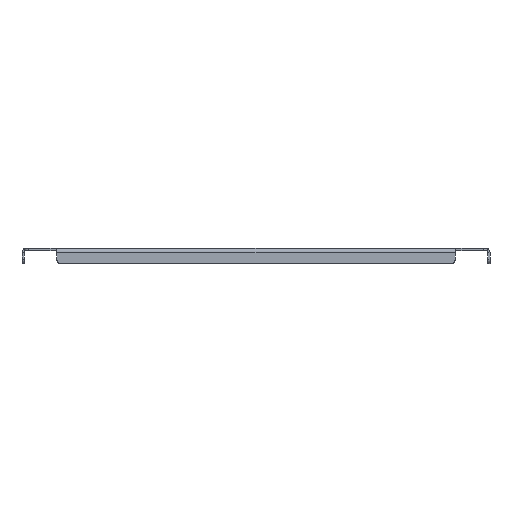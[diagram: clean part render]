
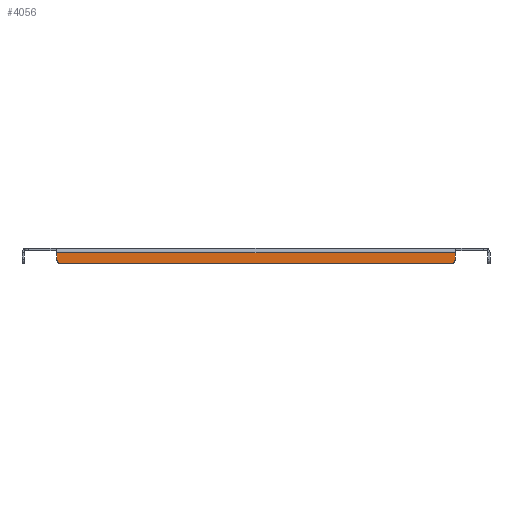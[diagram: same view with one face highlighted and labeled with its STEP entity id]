
A CAD part, front view. The second image highlights one B-rep face of the part: STEP entity #4056.
In plain terms, the highlighted planar face has unit normal (0, -1, 0).
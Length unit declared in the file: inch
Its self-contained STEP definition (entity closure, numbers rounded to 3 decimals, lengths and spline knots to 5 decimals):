
#1499=DIRECTION('',(-1.,0.,0.));
#1500=VECTOR('',#1499,22.9375);
#1501=CARTESIAN_POINT('',(11.46875,-19.46875,-0.237));
#1502=LINE('',#1501,#1500);
#1613=CARTESIAN_POINT('',(-11.21875,-19.46875,-0.625));
#1614=DIRECTION('',(0.,-1.,0.));
#1615=DIRECTION('',(-1.,0.,0.));
#1616=AXIS2_PLACEMENT_3D('',#1613,#1614,#1615);
#1621=DIRECTION('',(0.,0.,-1.));
#1622=VECTOR('',#1621,0.388);
#1623=CARTESIAN_POINT('',(-11.46875,-19.46875,-0.237));
#1624=LINE('',#1623,#1622);
#1628=DIRECTION('',(0.,0.,1.));
#1629=VECTOR('',#1628,0.388);
#1630=CARTESIAN_POINT('',(11.46875,-19.46875,-0.625));
#1631=LINE('',#1630,#1629);
#1635=CARTESIAN_POINT('',(11.21875,-19.46875,-0.625));
#1636=DIRECTION('',(0.,-1.,0.));
#1637=DIRECTION('',(0.,0.,-1.));
#1638=AXIS2_PLACEMENT_3D('',#1635,#1636,#1637);
#1643=DIRECTION('',(1.,0.,0.));
#1644=VECTOR('',#1643,22.4375);
#1645=CARTESIAN_POINT('',(-11.21875,-19.46875,-0.875));
#1646=LINE('',#1645,#1644);
#2004=CARTESIAN_POINT('',(11.46875,-19.46875,-0.237));
#2005=CARTESIAN_POINT('',(-11.46875,-19.46875,-0.237));
#2006=VERTEX_POINT('',#2004);
#2007=VERTEX_POINT('',#2005);
#2284=CARTESIAN_POINT('',(-11.46875,-19.46875,-0.625));
#2285=CARTESIAN_POINT('',(-11.21875,-19.46875,-0.875));
#2286=VERTEX_POINT('',#2284);
#2287=VERTEX_POINT('',#2285);
#2292=CARTESIAN_POINT('',(11.21875,-19.46875,-0.875));
#2293=CARTESIAN_POINT('',(11.46875,-19.46875,-0.625));
#2294=VERTEX_POINT('',#2292);
#2295=VERTEX_POINT('',#2293);
#4040=CARTESIAN_POINT('',(-13.34375,-19.46875,0.));
#4041=DIRECTION('',(0.,-1.,0.));
#4042=DIRECTION('',(-1.,0.,0.));
#4043=AXIS2_PLACEMENT_3D('',#4040,#4041,#4042);
#4044=PLANE('',#4043);
#4045=ORIENTED_EDGE('',*,*,#4030,.F.);
#4046=ORIENTED_EDGE('',*,*,#4020,.F.);
#4047=ORIENTED_EDGE('',*,*,#3826,.F.);
#4049=ORIENTED_EDGE('',*,*,#4048,.F.);
#4051=ORIENTED_EDGE('',*,*,#4050,.F.);
#4053=ORIENTED_EDGE('',*,*,#4052,.F.);
#4054=EDGE_LOOP('',(#4045,#4046,#4047,#4049,#4051,#4053));
#4055=FACE_OUTER_BOUND('',#4054,.F.);
#1617=CIRCLE('',#1616,0.25);
#1639=CIRCLE('',#1638,0.25);
#3826=EDGE_CURVE('',#2006,#2007,#1502,.T.);
#4020=EDGE_CURVE('',#2007,#2286,#1624,.T.);
#4030=EDGE_CURVE('',#2286,#2287,#1617,.T.);
#4048=EDGE_CURVE('',#2295,#2006,#1631,.T.);
#4050=EDGE_CURVE('',#2294,#2295,#1639,.T.);
#4052=EDGE_CURVE('',#2287,#2294,#1646,.T.);
#4056=ADVANCED_FACE('',(#4055),#4044,.T.);
